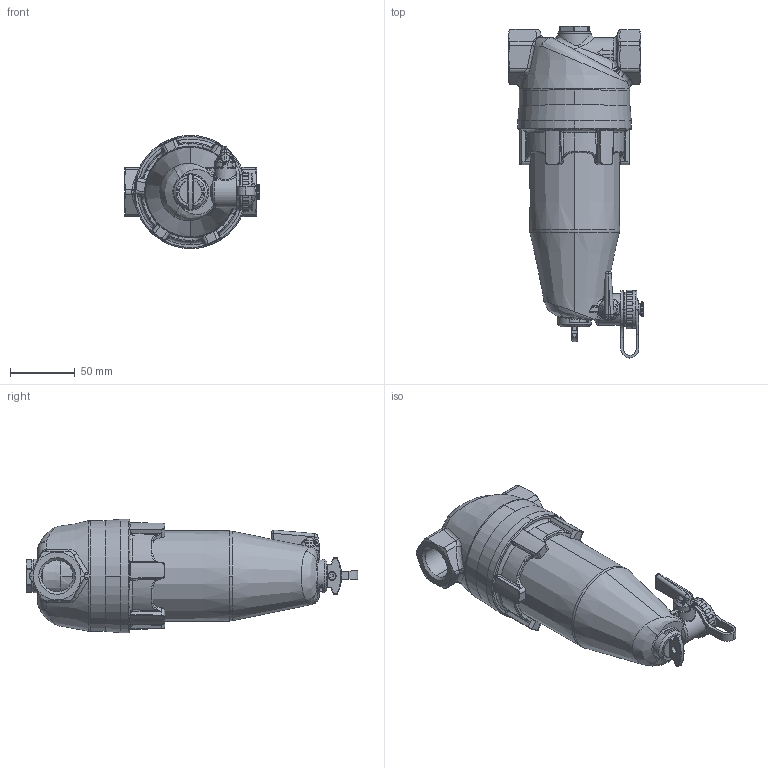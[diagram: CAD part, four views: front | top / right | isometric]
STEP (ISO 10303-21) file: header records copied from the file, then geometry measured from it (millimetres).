
FILE_DESCRIPTION (( 'STEP AP214' ), '1' );
FILE_NAME ('ADS180.STEP', '2022-07-13T10:19:21', ( '' ), ( '' ), 'SwSTEP 2.0', 'SolidWorks 2021', '' );
FILE_SCHEMA (( 'AUTOMOTIVE_DESIGN' ));
Length unit declared in the file: millimetre
Products named in the file (1): ADS180
Bounding box: 104.2 x 256.25 x 87.5 mm (x, y, z)
Volume: 418923.9 mm3; surface area: 201348.4 mm2
Topology: 11 solids, 11 shells, 1310 faces, 3243 edges, 1937 vertices
Faces by surface type: cylinder 378, bspline 362, plane 257, torus 181, cone 112, sphere 20
Entity records: 68348 total; most frequent: CARTESIAN_POINT 31873, ORIENTED_EDGE 6404, DIRECTION 5273, EDGE_CURVE 3202, AXIS2_PLACEMENT_3D 2212, VERTEX_POINT 1937, EDGE_LOOP 1353, FACE_OUTER_BOUND 1310
